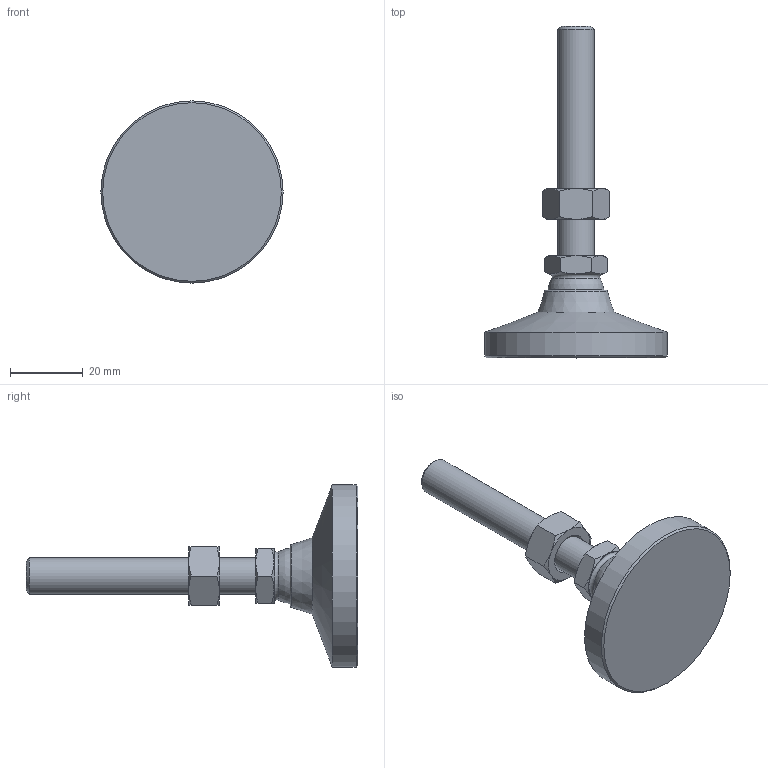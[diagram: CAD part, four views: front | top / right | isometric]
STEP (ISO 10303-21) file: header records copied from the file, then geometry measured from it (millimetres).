
FILE_DESCRIPTION( ( 'STEP AP214' ), ' ' );
FILE_NAME( 'O:/ganter_2015/teil_2/2_5/gn343_2/gn343_2_os/Levelling foot with threaded stud GN 343.2-50-M10-63-OS-(0).stp', '2015-10-26T09:07:46', ( '' ), ( '' ), ' ', 'PARTsolutions', ' ' );
FILE_SCHEMA( ( 'AUTOMOTIVE_DESIGN { 1 0 10303 214 1 1 1 1 }' ) );
Length unit declared in the file: millimetre
Products named in the file (4): Levelling foot with threaded stud GN 343.2-50-M10-63-OS-(0); _Levelling foot with threaded stud GN 343.2-50-M10-63-OS-(0)_foot; _Levelling foot with threaded stud GN 343.2-50-M10-63-OS-(0)_screw; _Stainless Steel-Levelling feet GN 343.2-50-M10-63-OS-(0)_nut
Assembly tree (3 placements, depth 2):
  Levelling foot with threaded stud GN 343.2-50-M10-63-OS-(0)
    _Levelling foot with threaded stud GN 343.2-50-M10-63-OS-(0)_foot
    _Levelling foot with threaded stud GN 343.2-50-M10-63-OS-(0)_screw
    _Stainless Steel-Levelling feet GN 343.2-50-M10-63-OS-(0)_nut
Bounding box: 50 x 91 x 50 mm (x, y, z)
Volume: 29165 mm3; surface area: 9621.8 mm2
Topology: 3 solids, 3 shells, 56 faces, 117 edges, 68 vertices
Faces by surface type: cone 30, plane 19, cylinder 3, torus 2, sphere 2
Full cylindrical faces by diameter (mm): 8.376 x1, 10 x1, 50 x1
Entity records: 2066 total; most frequent: CARTESIAN_POINT 498, DIRECTION 212, ORIENTED_EDGE 200, AXIS2_PLACEMENT_3D 100, EDGE_CURVE 100, EDGE_LOOP 72, VERTEX_POINT 66, FACE_OUTER_BOUND 61
